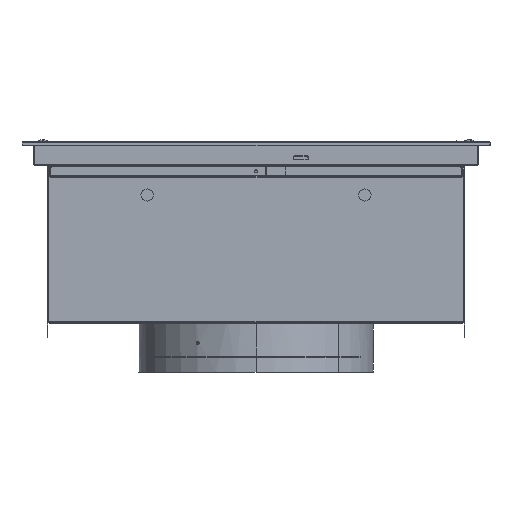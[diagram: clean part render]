
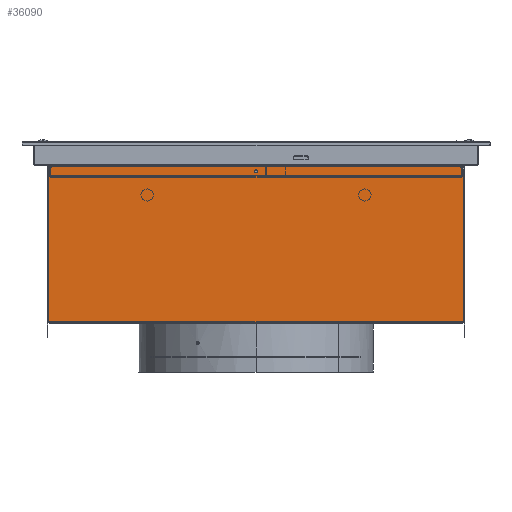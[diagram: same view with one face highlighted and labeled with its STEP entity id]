
A CAD part, left-side view. The second image highlights one B-rep face of the part: STEP entity #36090.
In plain terms, the highlighted planar face has unit normal (-1, 0, 0).
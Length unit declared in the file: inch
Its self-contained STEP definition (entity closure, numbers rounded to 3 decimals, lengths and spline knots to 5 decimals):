
#222 = VERTEX_POINT ( 'NONE', #13745 ) ;
#1384 = FACE_BOUND ( 'NONE', #19207, .T. ) ;
#1459 = EDGE_CURVE ( 'NONE', #32588, #50396, #32642, .T. ) ;
#3257 = DIRECTION ( 'NONE',  ( 0., 0., -1. ) ) ;
#3881 = CIRCLE ( 'NONE', #25010, 0.015 ) ;
#3900 = LINE ( 'NONE', #49957, #58018 ) ;
#4260 = ORIENTED_EDGE ( 'NONE', *, *, #1459, .T. ) ;
#4272 = AXIS2_PLACEMENT_3D ( 'NONE', #46985, #27053, #52919 ) ;
#4983 = CARTESIAN_POINT ( 'NONE',  ( -22.56225, 0.015, -1.203 ) ) ;
#5019 = ORIENTED_EDGE ( 'NONE', *, *, #37778, .T. ) ;
#5383 = CARTESIAN_POINT ( 'NONE',  ( -22.56225, 10.56225, -1.203 ) ) ;
#5406 = CARTESIAN_POINT ( 'NONE',  ( -22.56225, 0.075, -1.5796 ) ) ;
#6208 = ORIENTED_EDGE ( 'NONE', *, *, #54600, .T. ) ;
#6489 = VECTOR ( 'NONE', #32718, 39.37008 ) ;
#6693 = CARTESIAN_POINT ( 'NONE',  ( -22.56225, 0., 0. ) ) ;
#7022 = DIRECTION ( 'NONE',  ( 1., 0., 0. ) ) ;
#7038 = CARTESIAN_POINT ( 'NONE',  ( -22.56225, -10.26604, -1.203 ) ) ;
#7091 = EDGE_CURVE ( 'NONE', #32483, #19799, #45824, .T. ) ;
#7237 = LINE ( 'NONE', #61953, #6489 ) ;
#7758 = DIRECTION ( 'NONE',  ( 0., 0., -1. ) ) ;
#7947 = CIRCLE ( 'NONE', #24871, 0.075 ) ;
#8065 = LINE ( 'NONE', #50727, #10805 ) ;
#8188 = VERTEX_POINT ( 'NONE', #7038 ) ;
#8452 = VERTEX_POINT ( 'NONE', #38841 ) ;
#9182 = VECTOR ( 'NONE', #59093, 39.37008 ) ;
#9369 = EDGE_CURVE ( 'NONE', #25059, #8188, #9886, .T. ) ;
#9602 = DIRECTION ( 'NONE',  ( 0., 0., -1. ) ) ;
#9886 = CIRCLE ( 'NONE', #45833, 0.015 ) ;
#10385 = DIRECTION ( 'NONE',  ( 0., 0., -1. ) ) ;
#10775 = CARTESIAN_POINT ( 'NONE',  ( -22.56225, 0., -1.204 ) ) ;
#10805 = VECTOR ( 'NONE', #44767, 39.37008 ) ;
#11202 = EDGE_CURVE ( 'NONE', #19799, #222, #43253, .T. ) ;
#11282 = LINE ( 'NONE', #51717, #53384 ) ;
#11315 = VERTEX_POINT ( 'NONE', #45538 ) ;
#11641 = CARTESIAN_POINT ( 'NONE',  ( -22.56225, 10.52225, -9.137 ) ) ;
#12293 = AXIS2_PLACEMENT_3D ( 'NONE', #13280, #35134, #9602 ) ;
#13280 = CARTESIAN_POINT ( 'NONE',  ( -22.56225, 0., -1.091 ) ) ;
#13439 = CARTESIAN_POINT ( 'NONE',  ( -22.56225, 10.27225, -1.203 ) ) ;
#13519 = VERTEX_POINT ( 'NONE', #10775 ) ;
#13567 = CARTESIAN_POINT ( 'NONE',  ( -22.56225, -10.27664, -1.20739 ) ) ;
#13745 = CARTESIAN_POINT ( 'NONE',  ( -22.56225, 10.51786, -1.44861 ) ) ;
#14035 = CARTESIAN_POINT ( 'NONE',  ( -22.56225, -10.52225, -9.137 ) ) ;
#15726 = ORIENTED_EDGE ( 'NONE', *, *, #48541, .F. ) ;
#16230 = DIRECTION ( 'NONE',  ( 0., 0., -1. ) ) ;
#16450 = VERTEX_POINT ( 'NONE', #4983 ) ;
#17242 = AXIS2_PLACEMENT_3D ( 'NONE', #35891, #26806, #3257 ) ;
#17422 = EDGE_CURVE ( 'NONE', #26975, #8188, #25257, .T. ) ;
#18292 = ORIENTED_EDGE ( 'NONE', *, *, #11202, .T. ) ;
#18298 = CARTESIAN_POINT ( 'NONE',  ( -22.56225, 0.075, -1.5046 ) ) ;
#19065 = CARTESIAN_POINT ( 'NONE',  ( -22.56225, 10.27664, -1.20739 ) ) ;
#19207 = EDGE_LOOP ( 'NONE', ( #58948, #60063, #49339, #5019 ) ) ;
#19359 = AXIS2_PLACEMENT_3D ( 'NONE', #6693, #7022, #57757 ) ;
#19799 = VERTEX_POINT ( 'NONE', #19065 ) ;
#20621 = DIRECTION ( 'NONE',  ( 0., -1., 0. ) ) ;
#20981 = CARTESIAN_POINT ( 'NONE',  ( -22.56225, -0.015, -1.203 ) ) ;
#21380 = DIRECTION ( 'NONE',  ( 0., 1., 0. ) ) ;
#21760 = CARTESIAN_POINT ( 'NONE',  ( -22.56225, -0.075, -1.5796 ) ) ;
#22839 = EDGE_CURVE ( 'NONE', #11315, #49129, #7237, .T. ) ;
#24009 = CARTESIAN_POINT ( 'NONE',  ( -22.56225, 0.075, -1.5046 ) ) ;
#24871 = AXIS2_PLACEMENT_3D ( 'NONE', #50715, #26150, #16230 ) ;
#25010 = AXIS2_PLACEMENT_3D ( 'NONE', #30894, #55826, #10385 ) ;
#25059 = VERTEX_POINT ( 'NONE', #13567 ) ;
#25257 = LINE ( 'NONE', #5383, #53429 ) ;
#25442 = EDGE_CURVE ( 'NONE', #50396, #56029, #41371, .T. ) ;
#26150 = DIRECTION ( 'NONE',  ( 1., 0., 0. ) ) ;
#26217 = DIRECTION ( 'NONE',  ( 0., 0., 1. ) ) ;
#26237 = ORIENTED_EDGE ( 'NONE', *, *, #9369, .T. ) ;
#26806 = DIRECTION ( 'NONE',  ( -1., 0., 0. ) ) ;
#26975 = VERTEX_POINT ( 'NONE', #20981 ) ;
#27053 = DIRECTION ( 'NONE',  ( -1., 0., 0. ) ) ;
#27139 = ORIENTED_EDGE ( 'NONE', *, *, #63497, .F. ) ;
#27553 = LINE ( 'NONE', #18298, #9182 ) ;
#29036 = ORIENTED_EDGE ( 'NONE', *, *, #17422, .F. ) ;
#29126 = EDGE_CURVE ( 'NONE', #222, #43012, #3881, .T. ) ;
#29274 = VERTEX_POINT ( 'NONE', #5406 ) ;
#30645 = CARTESIAN_POINT ( 'NONE',  ( -22.56225, 0., -1.091 ) ) ;
#30894 = CARTESIAN_POINT ( 'NONE',  ( -22.56225, 10.50725, -1.45921 ) ) ;
#31957 = LINE ( 'NONE', #46588, #50452 ) ;
#32483 = VERTEX_POINT ( 'NONE', #36360 ) ;
#32588 = VERTEX_POINT ( 'NONE', #14035 ) ;
#32611 = CARTESIAN_POINT ( 'NONE',  ( -22.56225, -10.26604, -1.218 ) ) ;
#32642 = LINE ( 'NONE', #58199, #57529 ) ;
#32718 = DIRECTION ( 'NONE',  ( 0., 0., -1. ) ) ;
#32768 = ORIENTED_EDGE ( 'NONE', *, *, #56357, .F. ) ;
#34477 = EDGE_CURVE ( 'NONE', #26975, #13519, #46756, .T. ) ;
#34982 = CARTESIAN_POINT ( 'NONE',  ( -22.56225, -10.52225, -1.45921 ) ) ;
#35134 = DIRECTION ( 'NONE',  ( 1., 0., 0. ) ) ;
#35891 = CARTESIAN_POINT ( 'NONE',  ( -22.56225, 10.26604, -1.218 ) ) ;
#36090 = ADVANCED_FACE ( 'Face1', ( #1384, #52427 ), #57096, .F. ) ;
#36302 = DIRECTION ( 'NONE',  ( 1., 0., 0. ) ) ;
#36360 = CARTESIAN_POINT ( 'NONE',  ( -22.56225, 10.26604, -1.203 ) ) ;
#36692 = ORIENTED_EDGE ( 'NONE', *, *, #64996, .T. ) ;
#37284 = DIRECTION ( 'NONE',  ( -1., 0., 0. ) ) ;
#37778 = EDGE_CURVE ( 'NONE', #49129, #29274, #11282, .T. ) ;
#38220 = VECTOR ( 'NONE', #26217, 39.37008 ) ;
#38841 = CARTESIAN_POINT ( 'NONE',  ( -22.56225, 10.52225, -9.137 ) ) ;
#40025 = DIRECTION ( 'NONE',  ( 0., -1., 0. ) ) ;
#41371 = CIRCLE ( 'NONE', #4272, 0.015 ) ;
#43012 = VERTEX_POINT ( 'NONE', #52650 ) ;
#43253 = LINE ( 'NONE', #13439, #58360 ) ;
#43465 = VERTEX_POINT ( 'NONE', #24009 ) ;
#44767 = DIRECTION ( 'NONE',  ( 0., 0.707, 0.707 ) ) ;
#45538 = CARTESIAN_POINT ( 'NONE',  ( -22.56225, -0.075, -1.5046 ) ) ;
#45672 = AXIS2_PLACEMENT_3D ( 'NONE', #30645, #36302, #61515 ) ;
#45692 = EDGE_CURVE ( 'NONE', #43465, #11315, #7947, .T. ) ;
#45824 = CIRCLE ( 'NONE', #17242, 0.015 ) ;
#45833 = AXIS2_PLACEMENT_3D ( 'NONE', #32611, #37284, #7758 ) ;
#46588 = CARTESIAN_POINT ( 'NONE',  ( -22.56225, 10.56225, -9.137 ) ) ;
#46730 = DIRECTION ( 'NONE',  ( 0., 1., 0. ) ) ;
#46756 = CIRCLE ( 'NONE', #45672, 0.113 ) ;
#46985 = CARTESIAN_POINT ( 'NONE',  ( -22.56225, -10.50725, -1.45921 ) ) ;
#47746 = CARTESIAN_POINT ( 'NONE',  ( -22.56225, -10.51786, -1.44861 ) ) ;
#47908 = DIRECTION ( 'NONE',  ( 0., 0.707, -0.707 ) ) ;
#48121 = ORIENTED_EDGE ( 'NONE', *, *, #34477, .T. ) ;
#48541 = EDGE_CURVE ( 'NONE', #32588, #8452, #31957, .T. ) ;
#48991 = EDGE_CURVE ( 'NONE', #29274, #43465, #27553, .T. ) ;
#49129 = VERTEX_POINT ( 'NONE', #21760 ) ;
#49339 = ORIENTED_EDGE ( 'NONE', *, *, #22839, .T. ) ;
#49957 = CARTESIAN_POINT ( 'NONE',  ( -22.56225, 10.56225, -1.203 ) ) ;
#50396 = VERTEX_POINT ( 'NONE', #34982 ) ;
#50452 = VECTOR ( 'NONE', #21380, 39.37008 ) ;
#50715 = CARTESIAN_POINT ( 'NONE',  ( -22.56225, 0., -1.5046 ) ) ;
#50727 = CARTESIAN_POINT ( 'NONE',  ( -22.56225, -10.52225, -1.453 ) ) ;
#51717 = CARTESIAN_POINT ( 'NONE',  ( -22.56225, 0.075, -1.5796 ) ) ;
#52427 = FACE_OUTER_BOUND ( 'NONE', #59191, .T. ) ;
#52650 = CARTESIAN_POINT ( 'NONE',  ( -22.56225, 10.52225, -1.45921 ) ) ;
#52875 = DIRECTION ( 'NONE',  ( 0., 0., 1. ) ) ;
#52919 = DIRECTION ( 'NONE',  ( 0., 0., -1. ) ) ;
#53384 = VECTOR ( 'NONE', #46730, 39.37008 ) ;
#53429 = VECTOR ( 'NONE', #20621, 39.37008 ) ;
#53540 = CIRCLE ( 'NONE', #12293, 0.113 ) ;
#53878 = ORIENTED_EDGE ( 'NONE', *, *, #29126, .T. ) ;
#54600 = EDGE_CURVE ( 'NONE', #13519, #16450, #53540, .T. ) ;
#55826 = DIRECTION ( 'NONE',  ( -1., 0., 0. ) ) ;
#56029 = VERTEX_POINT ( 'NONE', #47746 ) ;
#56357 = EDGE_CURVE ( 'NONE', #32483, #16450, #3900, .T. ) ;
#57096 = PLANE ( 'NONE',  #19359 ) ;
#57411 = LINE ( 'NONE', #11641, #38220 ) ;
#57529 = VECTOR ( 'NONE', #52875, 39.37008 ) ;
#57757 = DIRECTION ( 'NONE',  ( 0., 0., -1. ) ) ;
#58018 = VECTOR ( 'NONE', #40025, 39.37008 ) ;
#58199 = CARTESIAN_POINT ( 'NONE',  ( -22.56225, -10.52225, -9.137 ) ) ;
#58360 = VECTOR ( 'NONE', #47908, 39.37008 ) ;
#58948 = ORIENTED_EDGE ( 'NONE', *, *, #48991, .T. ) ;
#59093 = DIRECTION ( 'NONE',  ( 0., 0., 1. ) ) ;
#59191 = EDGE_LOOP ( 'NONE', ( #29036, #48121, #6208, #32768, #60246, #18292, #53878, #27139, #15726, #4260, #62440, #36692, #26237 ) ) ;
#60063 = ORIENTED_EDGE ( 'NONE', *, *, #45692, .T. ) ;
#60246 = ORIENTED_EDGE ( 'NONE', *, *, #7091, .T. ) ;
#61515 = DIRECTION ( 'NONE',  ( 0., 0., -1. ) ) ;
#61953 = CARTESIAN_POINT ( 'NONE',  ( -22.56225, -0.075, -1.5796 ) ) ;
#62440 = ORIENTED_EDGE ( 'NONE', *, *, #25442, .T. ) ;
#63497 = EDGE_CURVE ( 'NONE', #8452, #43012, #57411, .T. ) ;
#64996 = EDGE_CURVE ( 'NONE', #56029, #25059, #8065, .T. ) ;
